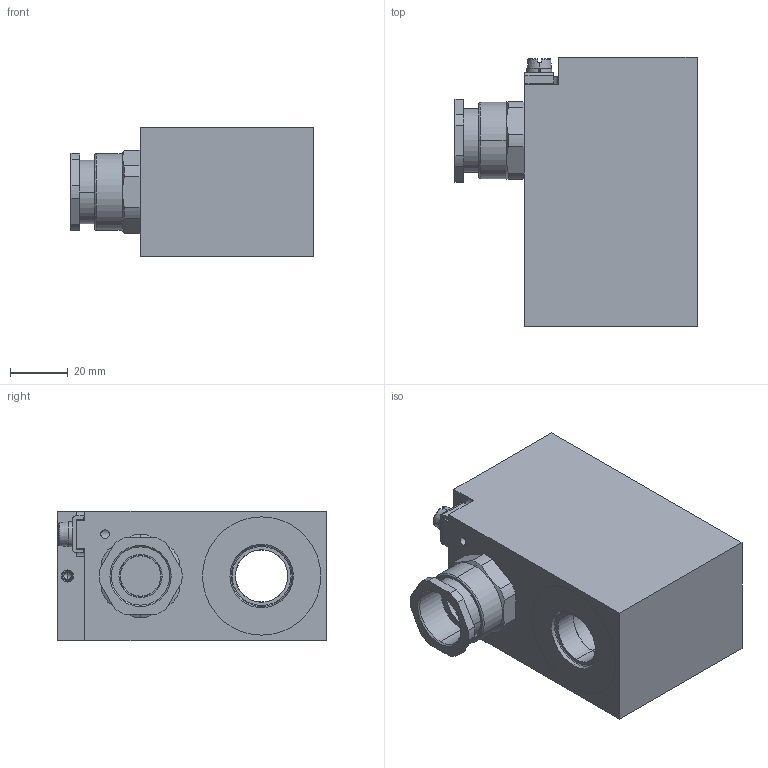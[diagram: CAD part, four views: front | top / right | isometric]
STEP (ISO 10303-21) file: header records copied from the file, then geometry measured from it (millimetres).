
FILE_DESCRIPTION (( 'STEP AP214' ), '1' );
FILE_NAME ('MKY45_18x60.STEP', '2014-03-19T08:48:06', ( '' ), ( '' ), 'SwSTEP 2.0', 'SolidWorks 2012', '' );
FILE_SCHEMA (( 'AUTOMOTIVE_DESIGN' ));
Length unit declared in the file: millimetre
Products named in the file (1): MKY45_18x60
Bounding box: 83.95 x 93.3 x 45 mm (x, y, z)
Volume: 242117.7 mm3; surface area: 54003.4 mm2
Topology: 14 solids, 14 shells, 305 faces, 726 edges, 464 vertices
Faces by surface type: plane 136, cylinder 101, cone 46, torus 12, bspline 10
Entity records: 12850 total; most frequent: CARTESIAN_POINT 2106, DIRECTION 1585, ORIENTED_EDGE 1432, EDGE_CURVE 716, AXIS2_PLACEMENT_3D 618, VERTEX_POINT 462, EDGE_LOOP 352, LINE 349
